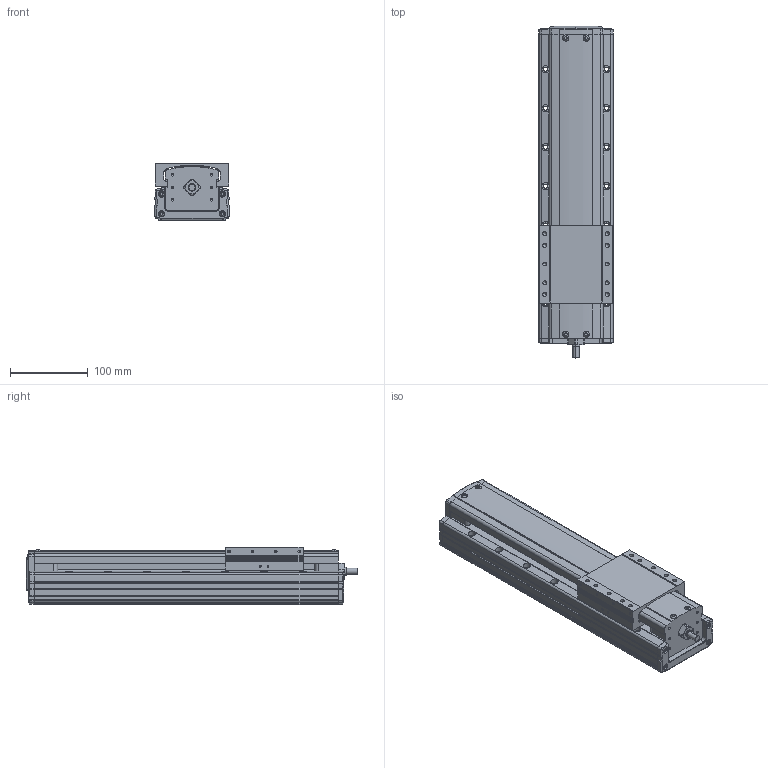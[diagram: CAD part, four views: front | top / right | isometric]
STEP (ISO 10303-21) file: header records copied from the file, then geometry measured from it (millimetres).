
FILE_DESCRIPTION(('STEP AP214'),'1');
FILE_NAME('Z:/Web/3D/PSA95/STP/PSA95-200 (3D)/PSA95ㅁㅁ-200.stp','2014-07-02T23:41:02',(' '),(' '),'Spatial InterOp 3D',' ',' ');
FILE_SCHEMA(('automotive_design'));
Length unit declared in the file: millimetre
Products named in the file (18): BASE; RRCV; 스크루 : Round - M4.0 x 10.0; 너트 : Square - M10.0 x 220.7419; RR1500; FRCV-090; 스크루 : Round - M4.0 x 6.0; SLBL-PA90
Bounding box: 95 x 426 x 74 mm (x, y, z)
Volume: 2228028.6 mm3; surface area: 257215.4 mm2
Topology: 18 solids, 18 shells, 1747 faces, 4722 edges, 3020 vertices
Faces by surface type: plane 1003, cylinder 515, cone 161, sphere 30, bspline 24, torus 14
Entity records: 70831 total; most frequent: CARTESIAN_POINT 12418, ORIENTED_EDGE 9236, DIRECTION 9174, EDGE_CURVE 4618, LINE 3234, VECTOR 3234, VERTEX_POINT 3020, AXIS2_PLACEMENT_3D 2970
